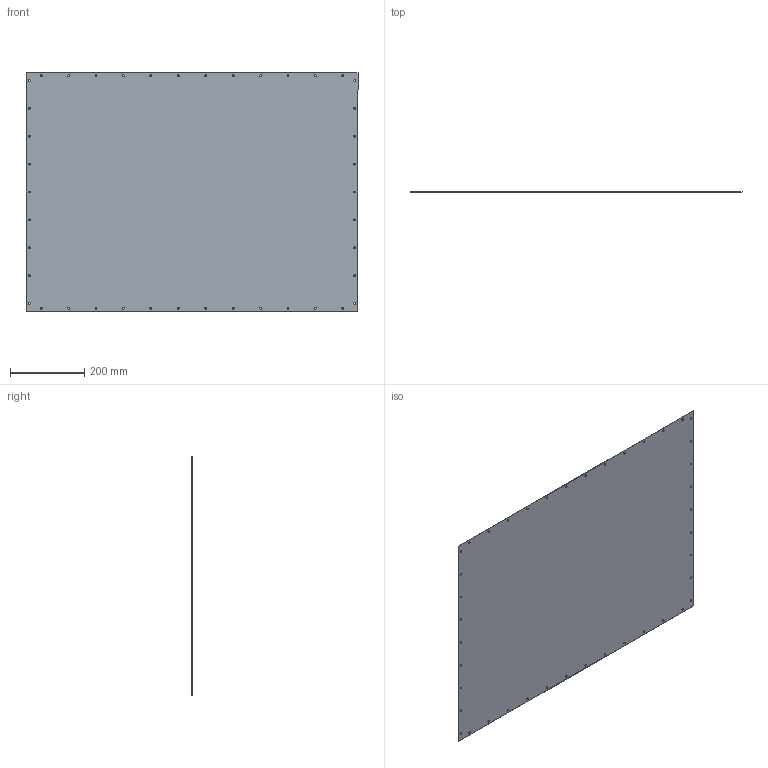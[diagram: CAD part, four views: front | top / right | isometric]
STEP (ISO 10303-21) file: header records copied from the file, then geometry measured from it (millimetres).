
FILE_DESCRIPTION (( 'STEP AP203' ), '1' );
FILE_NAME ('BOTTOM.STEP', '2023-10-25T16:10:26', ( '' ), ( '' ), 'SwSTEP 2.0', 'SolidWorks 2021', '' );
FILE_SCHEMA (( 'CONFIG_CONTROL_DESIGN' ));
Length unit declared in the file: millimetre
Products named in the file (1): BOTTOM
Bounding box: 892 x 0.79 x 642 mm (x, y, z)
Volume: 453897.5 mm3; surface area: 1146637.6 mm2
Topology: 1 solids, 1 shells, 90 faces, 264 edges, 176 vertices
Faces by surface type: cylinder 84, plane 6
Entity records: 3341 total; most frequent: DIRECTION 614, CARTESIAN_POINT 531, ORIENTED_EDGE 528, EDGE_CURVE 264, AXIS2_PLACEMENT_3D 259, VERTEX_POINT 176, EDGE_LOOP 174, CIRCLE 168
